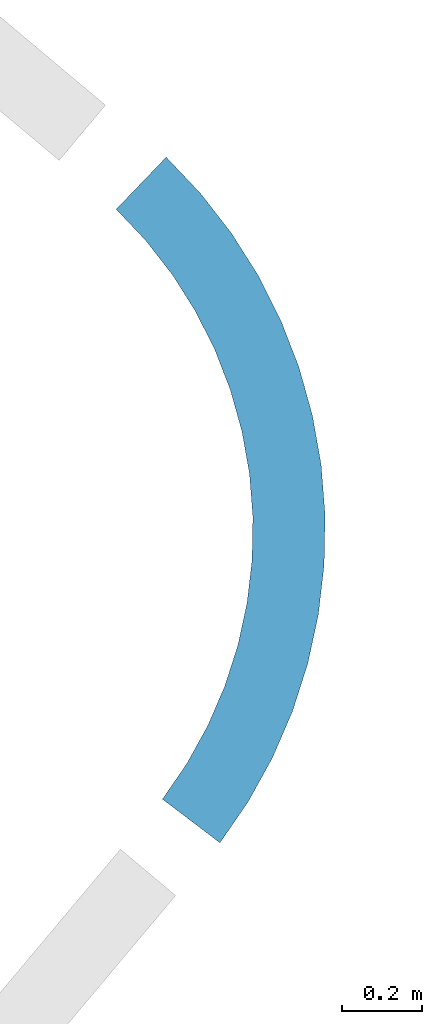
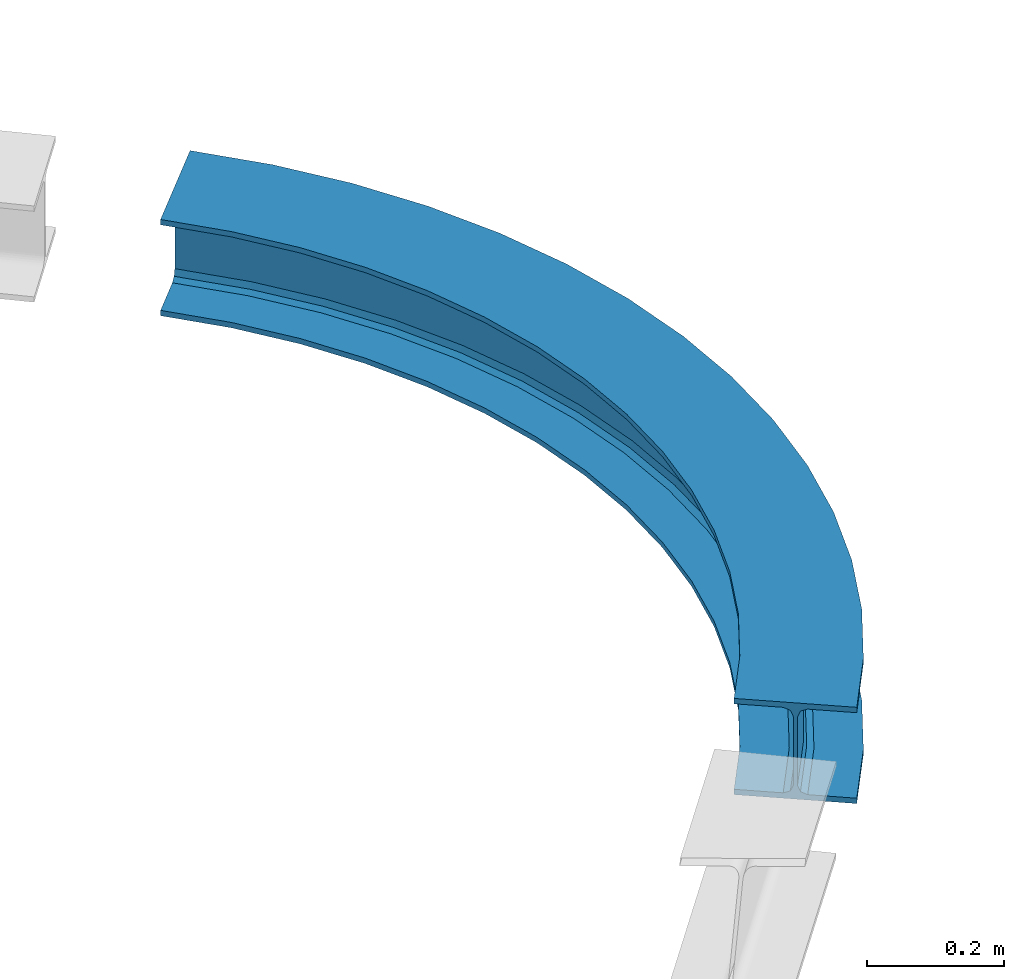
# One storey, part 9 of 14: 1 beam.
"""IFC2X3 building model written with IfcOpenShell, lengths in millimetres."""

from ifc_helpers import new_model, entity, si_unit, converted_unit, derived_unit, direction, frame, origin, place, context, subcontext, project, spatial, faceted_brep, material, type_object, element, save


model = new_model("IFC2X3")

# Units and contexts
model_context = context("Model", 3, precision=0.01, world=origin(), true_north=direction((6.123031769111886e-17, 1.0)))
body_context = subcontext(model_context, "Body", "Model", "MODEL_VIEW")
ifc_project = project(units=[si_unit("LENGTHUNIT", "METRE", prefix="MILLI"), si_unit("AREAUNIT", "SQUARE_METRE"), si_unit("VOLUMEUNIT", "CUBIC_METRE"), derived_unit("MASSDENSITYUNIT", [(si_unit("MASSUNIT", "GRAM", prefix="KILO"), 1), (si_unit("LENGTHUNIT", "METRE"), -3)]), si_unit("MASSUNIT", "GRAM", prefix="KILO"), converted_unit("PLANEANGLEUNIT", "DEGREE", entity("IfcPlaneAngleMeasure", 0.017453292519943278), si_unit("PLANEANGLEUNIT", "RADIAN"), dimensions=[0, 0, 0, 0, 0, 0, 0])], contexts=[model_context])

# Site, building, storey
site_placement = place(None, origin())
site = spatial("IfcSite", under=ifc_project, at=site_placement, Name="Default", CompositionType="ELEMENT")
building_placement = place(site_placement, origin())
building = spatial("IfcBuilding", under=site, at=building_placement, Name="AT constructie", CompositionType="ELEMENT")
storey_placement = place(building_placement, frame((0.0, 0.0, 12043.0)))
storey = spatial("IfcBuildingStorey", under=building, at=storey_placement, Name="03 derde verdieping", CompositionType="ELEMENT", Elevation=12043.0)

# Beam
ifc_material = material(Name="h2_staal_S355")
beam_type = type_object("IfcBeamType", Name="balk HE_gen_HEA180", PredefinedType="NOTDEFINED")
beam_placement = place(storey_placement, frame((50234.982847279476, 35914.43013198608, 0.0), z_axis=(0.0, 0.0, 1.0), x_axis=(-1.0, 0.0, 0.0)))
element("IfcBeam", 1, at=beam_placement, inside=storey, type_object=beam_type, material=ifc_material, Name="NLRS_28_SF_LIB_balk HEA_gen_AT:balk HE_gen_HEA180", ObjectType="NLRS_28_SF_LIB_balk HEA_gen_AT:balk HE_gen_HEA180", context=body_context, shape_type="Brep", body=[
    faceted_brep([(-1096.1002470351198, 676.2136811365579, -292.0), (-942.9073012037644, 581.7048384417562, -292.0), (-882.0856226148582, 670.3578537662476, -292.0), (-1025.396947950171, 779.2700387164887, -292.0), (-942.9073012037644, 581.7048384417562, -301.5000000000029), (-882.0856226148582, 670.3578537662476, -301.5000000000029), (-1004.1844795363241, 619.5083755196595, -301.49999999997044), (-939.4101527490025, 713.9227277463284, -301.49999999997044), (-1013.2114604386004, 625.0773624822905, -305.8933982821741), (-947.8548535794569, 720.3404397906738, -305.8933982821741), (-1016.9505583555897, 627.3841124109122, -316.5000000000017), (-951.3527631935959, 722.9987431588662, -316.5000000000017), (-1016.9505583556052, 627.3841124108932, -438.4999999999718), (-951.3527631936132, 722.9987431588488, -438.4999999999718), (-1013.2114604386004, 625.0773624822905, -449.1066017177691), (-947.8548535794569, 720.3404397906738, -449.1066017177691), (-1004.1844795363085, 619.5083755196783, -453.500000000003), (-939.4101527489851, 713.9227277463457, -453.500000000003), (-942.9073012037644, 581.7048384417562, -453.500000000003), (-882.0856226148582, 670.3578537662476, -453.500000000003), (-942.9073012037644, 581.7048384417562, -463.0), (-882.0856226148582, 670.3578537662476, -463.0), (-1096.1002470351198, 676.2136811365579, -463.0), (-1025.396947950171, 779.2700387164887, -463.0), (-1096.1002470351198, 676.2136811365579, -453.500000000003), (-1025.396947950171, 779.2700387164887, -453.500000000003), (-1034.8230687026, 638.410144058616, -453.4999999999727), (-968.0724178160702, 735.7051647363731, -453.4999999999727), (-1025.7960878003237, 632.841157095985, -449.1066017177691), (-959.6277169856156, 729.2874526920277, -449.1066017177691), (-1022.0569898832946, 630.5344071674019, -438.5000000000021), (-956.1298073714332, 726.62914932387, -438.5000000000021), (-1022.0569898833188, 630.5344071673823, -316.49999999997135), (-956.1298073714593, 726.6291493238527, -316.49999999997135), (-1025.7960878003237, 632.841157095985, -305.8933982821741), (-959.6277169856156, 729.2874526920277, -305.8933982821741), (-1034.823068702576, 638.4101440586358, -301.5000000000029), (-968.0724178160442, 735.7051647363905, -301.5000000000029), (-1096.1002470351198, 676.2136811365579, -301.5000000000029), (-1025.396947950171, 779.2700387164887, -301.5000000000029), (-1156.481844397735, 566.7895885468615, -292.0), (-994.8498577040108, 487.57405422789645, -292.0), (-994.8498577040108, 487.57405422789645, -301.5000000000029), (-1059.502652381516, 519.2602679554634, -301.49999999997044), (-1069.0269085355, 523.9280880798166, -305.8933982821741), (-1072.971984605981, 525.8615624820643, -316.5000000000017), (-1072.9719846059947, 525.861562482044, -438.4999999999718), (-1069.0269085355, 523.9280880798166, -449.1066017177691), (-1059.5026523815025, 519.2602679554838, -453.500000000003), (-994.8498577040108, 487.57405422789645, -453.500000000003), (-994.8498577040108, 487.57405422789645, -463.0), (-1156.481844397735, 566.7895885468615, -463.0), (-1156.481844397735, 566.7895885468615, -453.500000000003), (-1091.8290497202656, 535.1033748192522, -453.4999999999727), (-1082.3047935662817, 530.435554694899, -449.1066017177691), (-1078.3597174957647, 528.5020802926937, -438.5000000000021), (-1078.359717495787, 528.5020802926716, -316.49999999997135), (-1082.3047935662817, 530.435554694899, -305.8933982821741), (-1091.8290497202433, 535.1033748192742, -301.5000000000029), (-1156.481844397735, 566.7895885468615, -301.5000000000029), (-1205.9731416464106, 452.0281802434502, -292.0), (-1037.4241620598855, 388.8519071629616, -292.0), (-1037.4241620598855, 388.8519071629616, -301.5000000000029), (-1104.8437538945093, 414.12241639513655, -301.49999999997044), (-1114.775597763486, 417.84511398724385, -305.8933982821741), (-1118.8895021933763, 419.3871058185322, -316.5000000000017), (-1118.889502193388, 419.3871058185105, -438.4999999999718), (-1114.775597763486, 417.84511398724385, -449.1066017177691), (-1104.8437538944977, 414.12241639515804, -453.500000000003), (-1037.4241620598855, 388.8519071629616, -453.500000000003), (-1037.4241620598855, 388.8519071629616, -463.0), (-1205.9731416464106, 452.0281802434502, -463.0), (-1205.9731416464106, 452.0281802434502, -453.500000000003), (-1138.5535498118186, 426.7576710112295, -453.4999999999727), (-1128.6217059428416, 423.03497341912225, -449.1066017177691), (-1124.5078015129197, 421.49298158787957, -438.5000000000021), (-1124.5078015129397, 421.4929815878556, -316.49999999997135), (-1128.6217059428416, 423.03497341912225, -305.8933982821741), (-1138.5535498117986, 426.7576710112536, -301.5000000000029), (-1205.9731416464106, 452.0281802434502, -301.5000000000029), (-1244.1080916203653, 333.01013568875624, -292.0), (-1070.22930270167, 286.4680390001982, -292.0), (-1070.22930270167, 286.4680390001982, -301.5000000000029), (-1139.78081826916, 305.08487767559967, -301.49999999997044), (-1150.026724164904, 307.8273970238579, -305.8933982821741), (-1154.27071734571, 308.963385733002, -316.5000000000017), (-1154.270717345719, 308.9633857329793, -438.4999999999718), (-1150.026724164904, 307.8273970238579, -449.1066017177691), (-1139.7808182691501, 305.0848776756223, -453.500000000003), (-1070.22930270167, 286.4680390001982, -453.500000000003), (-1070.22930270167, 286.4680390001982, -463.0), (-1244.1080916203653, 333.01013568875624, -463.0), (-1244.1080916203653, 333.01013568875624, -453.500000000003), (-1174.5565760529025, 314.3932970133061, -453.4999999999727), (-1164.3106701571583, 311.650777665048, -449.1066017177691), (-1160.0666769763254, 310.51478895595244, -438.5000000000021), (-1160.066676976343, 310.5147889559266, -316.49999999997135), (-1164.3106701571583, 311.650777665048, -305.8933982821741), (-1174.5565760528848, 314.39329701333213, -301.5000000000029), (-1244.1080916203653, 333.01013568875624, -301.5000000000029), (-1270.5275870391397, 210.8562180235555, -292.0), (-1092.956361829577, 181.38657300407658, -292.0), (-1092.956361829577, 181.38657300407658, -301.5000000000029), (-1163.9848519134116, 193.17443101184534, -301.49999999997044), (-1174.4483367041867, 194.91094649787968, -305.8933982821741), (-1178.7824540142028, 195.63023476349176, -316.5000000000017), (-1178.78245401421, 195.63023476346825, -438.4999999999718), (-1174.4483367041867, 194.91094649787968, -449.1066017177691), (-1163.9848519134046, 193.1744310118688, -453.500000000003), (-1092.956361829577, 181.38657300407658, -453.500000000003), (-1092.956361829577, 181.38657300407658, -463.0), (-1270.5275870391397, 210.8562180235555, -463.0), (-1270.5275870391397, 210.8562180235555, -453.500000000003), (-1199.4990969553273, 199.06836001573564, -453.4999999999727), (-1189.0356121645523, 197.33184452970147, -449.1066017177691), (-1184.701494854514, 196.61255626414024, -438.5000000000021), (-1184.7014948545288, 196.61255626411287, -316.49999999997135), (-1189.0356121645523, 197.33184452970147, -305.8933982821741), (-1199.4990969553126, 199.06836001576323, -301.5000000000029), (-1270.5275870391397, 210.8562180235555, -301.5000000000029), (-1284.9828421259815, 86.71672012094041, -292.0), (-1105.391324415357, 74.59703504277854, -292.0), (-1105.391324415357, 74.59703504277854, -301.5000000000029), (-1177.2279314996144, 79.44490907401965, -301.49999999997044), (-1187.810463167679, 80.15906836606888, -305.8933982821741), (-1192.1938913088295, 80.45488283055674, -316.5000000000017), (-1192.1938913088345, 80.4548828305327, -438.4999999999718), (-1187.810463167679, 80.15906836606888, -449.1066017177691), (-1177.2279314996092, 79.44490907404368, -453.500000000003), (-1105.391324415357, 74.59703504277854, -453.500000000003), (-1105.391324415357, 74.59703504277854, -463.0), (-1284.9828421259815, 86.71672012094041, -463.0), (-1284.9828421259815, 86.71672012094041, -453.500000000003), (-1213.1462350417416, 81.86884608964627, -453.4999999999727), (-1202.5637033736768, 81.15468679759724, -449.1066017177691), (-1198.1802752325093, 80.85887233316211, -438.5000000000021), (-1198.1802752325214, 80.85887233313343, -316.49999999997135), (-1202.5637033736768, 81.15468679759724, -305.8933982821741), (-1213.1462350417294, 81.86884608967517, -301.5000000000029), (-1284.9828421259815, 86.71672012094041, -301.5000000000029), (-1287.3377353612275, -38.23936743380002, -292.0), (-1107.4170935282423, -32.8949645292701, -292.0), (-1107.4170935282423, -32.8949645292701, -301.5000000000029), (-1179.3853502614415, -35.03272569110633, -301.49999999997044), (-1189.9872757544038, -35.347647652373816, -305.8933982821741), (-1194.3787370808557, -35.478092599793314, -316.5000000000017), (-1194.3787370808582, -35.47809259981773, -438.4999999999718), (-1189.9872757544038, -35.347647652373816, -449.1066017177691), (-1179.3853502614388, -35.032725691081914, -453.500000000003), (-1107.4170935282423, -32.8949645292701, -453.500000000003), (-1107.4170935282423, -32.8949645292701, -463.0), (-1287.3377353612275, -38.23936743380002, -463.0), (-1287.3377353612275, -38.23936743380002, -453.500000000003), (-1215.3694786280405, -36.10160627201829, -453.4999999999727), (-1204.7675531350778, -35.786684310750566, -449.1066017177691), (-1200.376091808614, -35.656239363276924, -438.5000000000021), (-1200.3760918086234, -35.65623936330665, -316.49999999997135), (-1204.7675531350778, -35.786684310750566, -305.8933982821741), (-1215.3694786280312, -36.101606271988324, -301.5000000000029), (-1287.3377353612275, -38.23936743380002, -301.5000000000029), (-1277.5700913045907, -162.83536443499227, -292.0), (-1099.0145930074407, -140.0772004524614, -292.0), (-1099.0145930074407, -140.0772004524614, -301.5000000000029), (-1170.4367923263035, -149.1804660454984, -301.49999999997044), (-1180.9582759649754, -150.521503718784, -305.8933982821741), (-1185.3164171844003, -151.07697971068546, -316.5000000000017), (-1185.3164171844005, -151.07697971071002, -438.4999999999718), (-1180.9582759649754, -150.521503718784, -449.1066017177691), (-1170.436792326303, -149.18046604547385, -453.500000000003), (-1099.0145930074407, -140.0772004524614, -453.500000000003), (-1099.0145930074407, -140.0772004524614, -463.0), (-1277.5700913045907, -162.83536443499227, -463.0), (-1277.5700913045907, -162.83536443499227, -453.500000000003), (-1206.147891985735, -153.7320988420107, -453.4999999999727), (-1195.6264083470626, -152.39106116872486, -449.1066017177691), (-1191.268267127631, -151.83558517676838, -438.5000000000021), (-1191.2682671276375, -151.83558517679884, -316.49999999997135), (-1195.6264083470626, -152.39106116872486, -305.8933982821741), (-1206.1478919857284, -153.73209884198, -301.5000000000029), (-1277.5700913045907, -162.83536443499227, -301.5000000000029), (-1255.7718894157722, -285.897981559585, -292.0), (-1080.26294709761, -245.94036443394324, -292.0), (-1080.26294709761, -245.94036443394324, -301.5000000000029), (-1150.4665240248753, -261.92341128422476, -301.49999999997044), (-1160.8084876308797, -264.27793645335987, -305.8933982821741), (-1165.092269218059, -265.2532127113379, -316.5000000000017), (-1165.0922692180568, -265.2532127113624, -438.4999999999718), (-1160.8084876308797, -264.27793645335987, -449.1066017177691), (-1150.4665240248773, -261.92341128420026, -453.500000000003), (-1080.26294709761, -245.94036443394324, -453.500000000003), (-1080.26294709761, -245.94036443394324, -463.0), (-1255.7718894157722, -285.897981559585, -463.0), (-1255.7718894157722, -285.897981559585, -453.500000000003), (-1185.5683124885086, -269.91493470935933, -453.4999999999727), (-1175.2263488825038, -267.5604095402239, -449.1066017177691), (-1170.9425672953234, -266.5851332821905, -438.5000000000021), (-1170.9425672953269, -266.5851332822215, -316.49999999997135), (-1175.2263488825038, -267.5604095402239, -305.8933982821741), (-1185.5683124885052, -269.91493470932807, -301.5000000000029), (-1255.7718894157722, -285.897981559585, -301.5000000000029), (-1222.1483979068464, -406.26836893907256, -292.0), (-1051.3387353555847, -349.4875695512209, -292.0), (-1051.3387353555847, -349.4875695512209, -301.5000000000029), (-1119.6626003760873, -372.1998893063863, -301.49999999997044), (-1129.7276562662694, -375.5457299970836, -305.8933982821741), (-1133.8967389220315, -376.9316225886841, -316.5000000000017), (-1133.896738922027, -376.9316225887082, -438.4999999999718), (-1129.7276562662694, -375.5457299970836, -449.1066017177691), (-1119.6626003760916, -372.1998893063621, -453.500000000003), (-1051.3387353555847, -349.4875695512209, -453.500000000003), (-1051.3387353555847, -349.4875695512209, -463.0), (-1222.1483979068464, -406.26836893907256, -463.0), (-1222.1483979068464, -406.26836893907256, -453.500000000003), (-1153.82453288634, -383.5560491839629, -453.4999999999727), (-1143.7594769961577, -380.21020849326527, -449.1066017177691), (-1139.5903943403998, -378.8243159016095, -438.5000000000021), (-1139.5903943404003, -378.8243159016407, -316.49999999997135), (-1143.7594769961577, -380.21020849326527, -305.8933982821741), (-1153.8245328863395, -383.5560491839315, -301.5000000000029), (-1222.1483979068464, -406.26836893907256, -301.5000000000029), (-1177.016240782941, -522.813028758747, -292.0), (-1012.5143298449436, -449.7437376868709, -292.0), (-1012.5143298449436, -449.7437376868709, -301.5000000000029), (-1078.3150942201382, -478.9714541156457, -301.49999999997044), (-1088.008462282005, -483.2771033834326, -305.8933982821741), (-1092.0235867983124, -485.0605617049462, -316.5000000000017), (-1092.0235867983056, -485.06056170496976, -438.4999999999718), (-1088.008462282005, -483.2771033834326, -449.1066017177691), (-1078.3150942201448, -478.97145411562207, -453.500000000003), (-1012.5143298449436, -449.7437376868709, -453.500000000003), (-1012.5143298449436, -449.7437376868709, -463.0), (-1177.016240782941, -522.813028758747, -463.0), (-1177.016240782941, -522.813028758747, -453.500000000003), (-1111.2154764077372, -493.58531233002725, -453.4999999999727), (-1101.52210834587, -489.27966306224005, -449.1066017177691), (-1097.5069838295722, -487.4962047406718, -438.5000000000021), (-1097.5069838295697, -487.49620474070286, -316.49999999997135), (-1101.52210834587, -489.27966306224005, -305.8933982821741), (-1111.21547640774, -493.58531232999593, -301.5000000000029), (-1177.016240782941, -522.813028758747, -301.5000000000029), (-1120.8004162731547, -634.4344891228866, -292.0), (-964.1553302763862, -545.7647815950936, -292.0), (-964.1553302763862, -545.7647815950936, -301.5000000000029), (-1026.8133646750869, -581.2326646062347, -301.49999999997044), (-1036.0437648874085, -586.4575772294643, -305.8933982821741), (-1039.8671218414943, -588.6218069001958, -316.5000000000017), (-1039.8671218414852, -588.6218069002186, -438.4999999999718), (-1036.0437648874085, -586.4575772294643, -449.1066017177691), (-1026.813364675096, -581.2326646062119, -453.500000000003), (-964.1553302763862, -545.7647815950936, -453.500000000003), (-964.1553302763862, -545.7647815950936, -463.0), (-1120.8004162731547, -634.4344891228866, -463.0), (-1120.8004162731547, -634.4344891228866, -453.500000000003), (-1058.1423818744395, -598.9666061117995, -453.4999999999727), (-1048.9119816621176, -593.7416934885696, -449.1066017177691), (-1045.0886247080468, -591.5774638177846, -438.5000000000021), (-1045.0886247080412, -591.5774638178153, -316.49999999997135), (-1048.9119816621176, -593.7416934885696, -305.8933982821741), (-1058.1423818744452, -598.9666061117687, -301.5000000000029), (-1120.8004162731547, -634.4344891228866, -301.5000000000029), (-1054.030294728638, -740.0816386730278, -292.0), (-906.7171212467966, -636.6464951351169, -292.0), (-906.7171212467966, -636.6464951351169, -301.5000000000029), (-965.642390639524, -678.0205525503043, -301.49999999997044), (-974.3229026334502, -684.1155268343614, -305.8933982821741), (-977.9184884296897, -686.6401478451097, -316.5000000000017), (-977.9184884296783, -686.6401478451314, -438.4999999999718), (-974.3229026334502, -684.1155268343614, -449.1066017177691), (-965.6423906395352, -678.0205525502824, -453.500000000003), (-906.7171212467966, -636.6464951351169, -453.500000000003), (-906.7171212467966, -636.6464951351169, -463.0), (-1054.030294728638, -740.0816386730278, -463.0), (-1054.030294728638, -740.0816386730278, -453.500000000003), (-995.1050253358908, -698.7075812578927, -453.4999999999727), (-986.4245133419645, -692.6126069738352, -449.1066017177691), (-982.8289275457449, -690.0879859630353, -438.5000000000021), (-982.8289275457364, -690.0879859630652, -316.49999999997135), (-986.4245133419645, -692.6126069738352, -305.8933982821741), (-995.1050253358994, -698.7075812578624, -301.5000000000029), (-1054.030294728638, -740.0816386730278, -301.5000000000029), (-977.3346336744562, -838.7596246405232, -292.0), (-840.7405839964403, -721.5330679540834, -292.0), (-840.7405839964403, -721.5330679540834, -301.5000000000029), (-895.3782038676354, -768.4236906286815, -301.49999999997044), (-903.4270854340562, -775.3313317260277, -305.8933982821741), (-906.7610413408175, -778.1925703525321, -316.5000000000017), (-906.761041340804, -778.1925703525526, -438.4999999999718), (-903.4270854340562, -775.3313317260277, -449.1066017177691), (-895.3782038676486, -768.4236906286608, -453.500000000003), (-840.7405839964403, -721.5330679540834, -453.500000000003), (-840.7405839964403, -721.5330679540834, -463.0), (-977.3346336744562, -838.7596246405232, -463.0), (-977.3346336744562, -838.7596246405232, -453.500000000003), (-922.6970138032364, -791.8690019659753, -453.4999999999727), (-914.6481322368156, -784.9613608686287, -449.1066017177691), (-911.3141763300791, -782.1001222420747, -438.5000000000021), (-911.3141763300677, -782.1001222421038, -316.49999999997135), (-914.6481322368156, -784.9613608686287, -305.8933982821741), (-922.697013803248, -791.869001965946, -301.5000000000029), (-977.3346336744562, -838.7596246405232, -301.5000000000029), (-891.4356569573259, -929.5392211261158, -292.0), (-766.8470030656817, -799.6251444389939, -292.0), (-766.8470030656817, -799.6251444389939, -301.5000000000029), (-816.6824646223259, -851.5907751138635, -301.49999999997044), (-824.0239214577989, -859.2460354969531, -305.8933982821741), (-827.0648524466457, -862.4169481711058, -316.5000000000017), (-827.0648524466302, -862.416948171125, -438.4999999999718), (-824.0239214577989, -859.2460354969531, -449.1066017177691), (-816.6824646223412, -851.5907751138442, -453.500000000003), (-766.8470030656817, -799.6251444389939, -453.500000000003), (-766.8470030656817, -799.6251444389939, -463.0), (-891.4356569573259, -929.5392211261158, -463.0), (-891.4356569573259, -929.5392211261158, -453.500000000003), (-841.6001954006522, -877.5735904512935, -453.4999999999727), (-834.2587385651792, -869.9183300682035, -449.1066017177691), (-831.217807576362, -866.7474173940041, -438.5000000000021), (-831.2178075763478, -866.7474173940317, -316.49999999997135), (-834.2587385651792, -869.9183300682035, -305.8933982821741), (-841.6001954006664, -877.5735904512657, -301.5000000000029), (-891.4356569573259, -929.5392211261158, -301.5000000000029)], [[[0, 1, 2, 3]], [[1, 4, 5, 2]], [[4, 6, 7, 5]], [[6, 8, 9, 7]], [[8, 10, 11, 9]], [[10, 12, 13, 11]], [[12, 14, 15, 13]], [[14, 16, 17, 15]], [[16, 18, 19, 17]], [[18, 20, 21, 19]], [[20, 22, 23, 21]], [[22, 24, 25, 23]], [[24, 26, 27, 25]], [[26, 28, 29, 27]], [[28, 30, 31, 29]], [[30, 32, 33, 31]], [[32, 34, 35, 33]], [[34, 36, 37, 35]], [[36, 38, 39, 37]], [[38, 0, 3, 39]], [[40, 41, 1, 0]], [[41, 42, 4, 1]], [[42, 43, 6, 4]], [[43, 44, 8, 6]], [[44, 45, 10, 8]], [[45, 46, 12, 10]], [[46, 47, 14, 12]], [[47, 48, 16, 14]], [[48, 49, 18, 16]], [[49, 50, 20, 18]], [[50, 51, 22, 20]], [[51, 52, 24, 22]], [[52, 53, 26, 24]], [[53, 54, 28, 26]], [[54, 55, 30, 28]], [[55, 56, 32, 30]], [[56, 57, 34, 32]], [[57, 58, 36, 34]], [[58, 59, 38, 36]], [[59, 40, 0, 38]], [[60, 61, 41, 40]], [[61, 62, 42, 41]], [[62, 63, 43, 42]], [[63, 64, 44, 43]], [[64, 65, 45, 44]], [[65, 66, 46, 45]], [[66, 67, 47, 46]], [[67, 68, 48, 47]], [[68, 69, 49, 48]], [[69, 70, 50, 49]], [[70, 71, 51, 50]], [[71, 72, 52, 51]], [[72, 73, 53, 52]], [[73, 74, 54, 53]], [[74, 75, 55, 54]], [[75, 76, 56, 55]], [[76, 77, 57, 56]], [[77, 78, 58, 57]], [[78, 79, 59, 58]], [[79, 60, 40, 59]], [[80, 81, 61, 60]], [[81, 82, 62, 61]], [[82, 83, 63, 62]], [[83, 84, 64, 63]], [[84, 85, 65, 64]], [[85, 86, 66, 65]], [[86, 87, 67, 66]], [[87, 88, 68, 67]], [[88, 89, 69, 68]], [[89, 90, 70, 69]], [[90, 91, 71, 70]], [[91, 92, 72, 71]], [[92, 93, 73, 72]], [[93, 94, 74, 73]], [[94, 95, 75, 74]], [[95, 96, 76, 75]], [[96, 97, 77, 76]], [[97, 98, 78, 77]], [[98, 99, 79, 78]], [[99, 80, 60, 79]], [[100, 101, 81, 80]], [[101, 102, 82, 81]], [[102, 103, 83, 82]], [[103, 104, 84, 83]], [[104, 105, 85, 84]], [[105, 106, 86, 85]], [[106, 107, 87, 86]], [[107, 108, 88, 87]], [[108, 109, 89, 88]], [[109, 110, 90, 89]], [[110, 111, 91, 90]], [[111, 112, 92, 91]], [[112, 113, 93, 92]], [[113, 114, 94, 93]], [[114, 115, 95, 94]], [[115, 116, 96, 95]], [[116, 117, 97, 96]], [[117, 118, 98, 97]], [[118, 119, 99, 98]], [[119, 100, 80, 99]], [[120, 121, 101, 100]], [[121, 122, 102, 101]], [[122, 123, 103, 102]], [[123, 124, 104, 103]], [[124, 125, 105, 104]], [[125, 126, 106, 105]], [[126, 127, 107, 106]], [[127, 128, 108, 107]], [[128, 129, 109, 108]], [[129, 130, 110, 109]], [[130, 131, 111, 110]], [[131, 132, 112, 111]], [[132, 133, 113, 112]], [[133, 134, 114, 113]], [[134, 135, 115, 114]], [[135, 136, 116, 115]], [[136, 137, 117, 116]], [[137, 138, 118, 117]], [[138, 139, 119, 118]], [[139, 120, 100, 119]], [[140, 141, 121, 120]], [[141, 142, 122, 121]], [[142, 143, 123, 122]], [[143, 144, 124, 123]], [[144, 145, 125, 124]], [[145, 146, 126, 125]], [[146, 147, 127, 126]], [[147, 148, 128, 127]], [[148, 149, 129, 128]], [[149, 150, 130, 129]], [[150, 151, 131, 130]], [[151, 152, 132, 131]], [[152, 153, 133, 132]], [[153, 154, 134, 133]], [[154, 155, 135, 134]], [[155, 156, 136, 135]], [[156, 157, 137, 136]], [[157, 158, 138, 137]], [[158, 159, 139, 138]], [[159, 140, 120, 139]], [[160, 161, 141, 140]], [[161, 162, 142, 141]], [[162, 163, 143, 142]], [[163, 164, 144, 143]], [[164, 165, 145, 144]], [[165, 166, 146, 145]], [[166, 167, 147, 146]], [[167, 168, 148, 147]], [[168, 169, 149, 148]], [[169, 170, 150, 149]], [[170, 171, 151, 150]], [[171, 172, 152, 151]], [[172, 173, 153, 152]], [[173, 174, 154, 153]], [[174, 175, 155, 154]], [[175, 176, 156, 155]], [[176, 177, 157, 156]], [[177, 178, 158, 157]], [[178, 179, 159, 158]], [[179, 160, 140, 159]], [[180, 181, 161, 160]], [[181, 182, 162, 161]], [[182, 183, 163, 162]], [[183, 184, 164, 163]], [[184, 185, 165, 164]], [[185, 186, 166, 165]], [[186, 187, 167, 166]], [[187, 188, 168, 167]], [[188, 189, 169, 168]], [[189, 190, 170, 169]], [[190, 191, 171, 170]], [[191, 192, 172, 171]], [[192, 193, 173, 172]], [[193, 194, 174, 173]], [[194, 195, 175, 174]], [[195, 196, 176, 175]], [[196, 197, 177, 176]], [[197, 198, 178, 177]], [[198, 199, 179, 178]], [[199, 180, 160, 179]], [[200, 201, 181, 180]], [[201, 202, 182, 181]], [[202, 203, 183, 182]], [[203, 204, 184, 183]], [[204, 205, 185, 184]], [[205, 206, 186, 185]], [[206, 207, 187, 186]], [[207, 208, 188, 187]], [[208, 209, 189, 188]], [[209, 210, 190, 189]], [[210, 211, 191, 190]], [[211, 212, 192, 191]], [[212, 213, 193, 192]], [[213, 214, 194, 193]], [[214, 215, 195, 194]], [[215, 216, 196, 195]], [[216, 217, 197, 196]], [[217, 218, 198, 197]], [[218, 219, 199, 198]], [[219, 200, 180, 199]], [[220, 221, 201, 200]], [[221, 222, 202, 201]], [[222, 223, 203, 202]], [[223, 224, 204, 203]], [[224, 225, 205, 204]], [[225, 226, 206, 205]], [[226, 227, 207, 206]], [[227, 228, 208, 207]], [[228, 229, 209, 208]], [[229, 230, 210, 209]], [[230, 231, 211, 210]], [[231, 232, 212, 211]], [[232, 233, 213, 212]], [[233, 234, 214, 213]], [[234, 235, 215, 214]], [[235, 236, 216, 215]], [[236, 237, 217, 216]], [[237, 238, 218, 217]], [[238, 239, 219, 218]], [[239, 220, 200, 219]], [[240, 241, 221, 220]], [[241, 242, 222, 221]], [[242, 243, 223, 222]], [[243, 244, 224, 223]], [[244, 245, 225, 224]], [[245, 246, 226, 225]], [[246, 247, 227, 226]], [[247, 248, 228, 227]], [[248, 249, 229, 228]], [[249, 250, 230, 229]], [[250, 251, 231, 230]], [[251, 252, 232, 231]], [[252, 253, 233, 232]], [[253, 254, 234, 233]], [[254, 255, 235, 234]], [[255, 256, 236, 235]], [[256, 257, 237, 236]], [[257, 258, 238, 237]], [[258, 259, 239, 238]], [[259, 240, 220, 239]], [[260, 261, 241, 240]], [[261, 262, 242, 241]], [[262, 263, 243, 242]], [[263, 264, 244, 243]], [[264, 265, 245, 244]], [[265, 266, 246, 245]], [[266, 267, 247, 246]], [[267, 268, 248, 247]], [[268, 269, 249, 248]], [[269, 270, 250, 249]], [[270, 271, 251, 250]], [[271, 272, 252, 251]], [[272, 273, 253, 252]], [[273, 274, 254, 253]], [[274, 275, 255, 254]], [[275, 276, 256, 255]], [[276, 277, 257, 256]], [[277, 278, 258, 257]], [[278, 279, 259, 258]], [[279, 260, 240, 259]], [[280, 281, 261, 260]], [[281, 282, 262, 261]], [[282, 283, 263, 262]], [[283, 284, 264, 263]], [[284, 285, 265, 264]], [[285, 286, 266, 265]], [[286, 287, 267, 266]], [[287, 288, 268, 267]], [[288, 289, 269, 268]], [[289, 290, 270, 269]], [[290, 291, 271, 270]], [[291, 292, 272, 271]], [[292, 293, 273, 272]], [[293, 294, 274, 273]], [[294, 295, 275, 274]], [[295, 296, 276, 275]], [[296, 297, 277, 276]], [[297, 298, 278, 277]], [[298, 299, 279, 278]], [[299, 280, 260, 279]], [[300, 301, 281, 280]], [[301, 302, 282, 281]], [[302, 303, 283, 282]], [[303, 304, 284, 283]], [[304, 305, 285, 284]], [[305, 306, 286, 285]], [[306, 307, 287, 286]], [[307, 308, 288, 287]], [[308, 309, 289, 288]], [[309, 310, 290, 289]], [[310, 311, 291, 290]], [[311, 312, 292, 291]], [[312, 313, 293, 292]], [[313, 314, 294, 293]], [[314, 315, 295, 294]], [[315, 316, 296, 295]], [[316, 317, 297, 296]], [[317, 318, 298, 297]], [[318, 319, 299, 298]], [[319, 300, 280, 299]], [[3, 2, 5, 7, 9, 11, 13, 15, 17, 19, 21, 23, 25, 27, 29, 31, 33, 35, 37, 39]], [[319, 318, 317, 316, 315, 314, 313, 312, 311, 310, 309, 308, 307, 306, 305, 304, 303, 302, 301, 300]]]),
])

save(model, "model.ifc")
